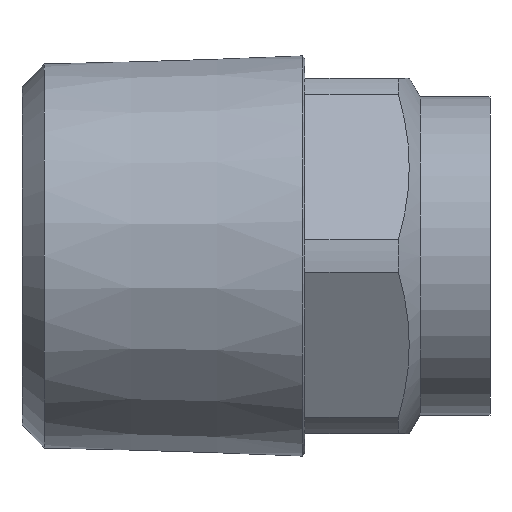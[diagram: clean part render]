
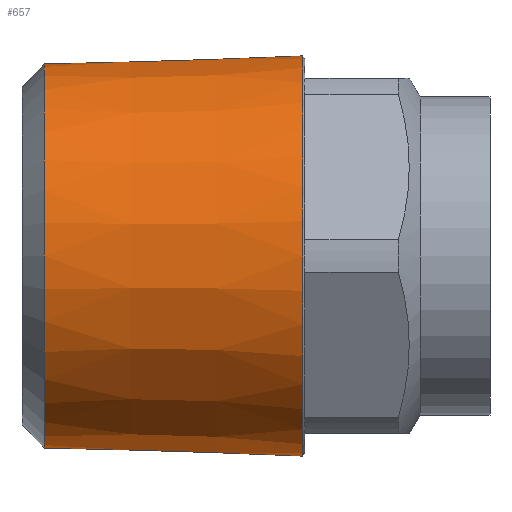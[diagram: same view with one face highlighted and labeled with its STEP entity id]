
A CAD part, front view. The second image highlights one B-rep face of the part: STEP entity #657.
In plain terms, the highlighted conical face has half-angle 1.79 degrees and reference radius 10.454 mm.
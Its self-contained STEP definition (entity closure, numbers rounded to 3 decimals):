
#606=CARTESIAN_POINT('',(1.199,10.257,0.));
#607=VERTEX_POINT('',#606);
#608=CARTESIAN_POINT('',(1.199,0.0,0.));
#609=DIRECTION('',(-1.0,0.0,0.0));
#610=DIRECTION('',(0.0,-1.0,0.0));
#611=AXIS2_PLACEMENT_3D('',#608,#609,#610);
#612=CIRCLE('',#611,10.257);
#613=EDGE_CURVE('',#607,#607,#612,.T.);
#638=CARTESIAN_POINT('',(7.5,0.0,0.0));
#639=DIRECTION('',(1.0,0.0,0.0));
#640=DIRECTION('',(0.0,1.0,0.0));
#641=AXIS2_PLACEMENT_3D('',#638,#639,#640);
#642=CONICAL_SURFACE('',#641,10.454,1.79);
#643=CARTESIAN_POINT('',(15.,10.689,0.0));
#644=VERTEX_POINT('',#643);
#645=CARTESIAN_POINT('',(15.,0.0,0.0));
#646=DIRECTION('',(1.0,0.0,0.0));
#647=DIRECTION('',(0.0,1.0,0.0));
#648=AXIS2_PLACEMENT_3D('',#645,#646,#647);
#649=CIRCLE('',#648,10.689);
#650=EDGE_CURVE('',#644,#644,#649,.T.);
#651=ORIENTED_EDGE('',*,*,#650,.F.);
#652=EDGE_LOOP('',(#651));
#653=FACE_OUTER_BOUND('',#652,.T.);
#654=ORIENTED_EDGE('',*,*,#613,.F.);
#655=EDGE_LOOP('',(#654));
#656=FACE_BOUND('',#655,.T.);
#657=ADVANCED_FACE('',(#653,#656),#642,.T.);
